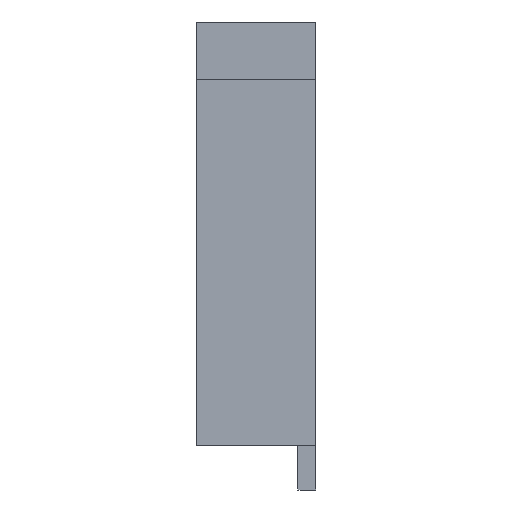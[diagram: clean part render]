
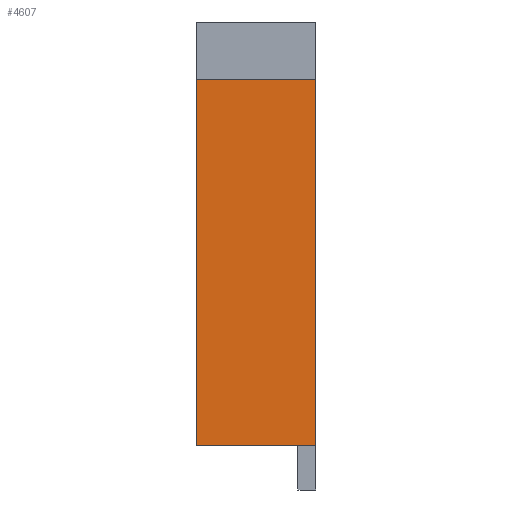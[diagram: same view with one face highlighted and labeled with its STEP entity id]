
A CAD part, left-side view. The second image highlights one B-rep face of the part: STEP entity #4607.
In plain terms, the highlighted planar face has unit normal (-1, 0, 0).
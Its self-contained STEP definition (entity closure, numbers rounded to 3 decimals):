
#310=DIRECTION('',(0.,0.,1.));
#311=VECTOR('',#310,4.15);
#312=CARTESIAN_POINT('',(-7.2,0.,-4.8));
#313=LINE('',#312,#311);
#1634=DIRECTION('',(0.,0.,1.));
#1635=VECTOR('',#1634,4.15);
#1636=CARTESIAN_POINT('',(-7.2,1.35,-4.8));
#1637=LINE('',#1636,#1635);
#1650=DIRECTION('',(0.,1.,0.));
#1651=VECTOR('',#1650,1.35);
#1652=CARTESIAN_POINT('',(-7.2,0.,-0.65));
#1653=LINE('',#1652,#1651);
#1654=DIRECTION('',(0.,1.,0.));
#1655=VECTOR('',#1654,1.35);
#1656=CARTESIAN_POINT('',(-7.2,0.,-4.8));
#1657=LINE('',#1656,#1655);
#2019=CARTESIAN_POINT('',(-7.2,1.35,-4.8));
#2021=VERTEX_POINT('',#2019);
#2024=CARTESIAN_POINT('',(-7.2,0.,-4.8));
#2025=VERTEX_POINT('',#2024);
#2052=CARTESIAN_POINT('',(-7.2,0.,-0.65));
#2053=VERTEX_POINT('',#2052);
#2064=CARTESIAN_POINT('',(-7.2,1.35,-0.65));
#2065=VERTEX_POINT('',#2064);
#4596=CARTESIAN_POINT('',(-7.2,0.,-4.8));
#4597=DIRECTION('',(-1.,0.,0.));
#4598=DIRECTION('',(0.,0.,1.));
#4599=AXIS2_PLACEMENT_3D('',#4596,#4597,#4598);
#4600=PLANE('',#4599);
#4601=ORIENTED_EDGE('',*,*,#4589,.F.);
#4602=ORIENTED_EDGE('',*,*,#2849,.F.);
#4603=ORIENTED_EDGE('',*,*,#3048,.T.);
#4604=ORIENTED_EDGE('',*,*,#4563,.T.);
#4605=EDGE_LOOP('',(#4601,#4602,#4603,#4604));
#4606=FACE_OUTER_BOUND('',#4605,.F.);
#4607=ADVANCED_FACE('',(#4606),#4600,.T.);
#2849=EDGE_CURVE('',#2025,#2053,#313,.T.);
#3048=EDGE_CURVE('',#2025,#2021,#1657,.T.);
#4563=EDGE_CURVE('',#2021,#2065,#1637,.T.);
#4589=EDGE_CURVE('',#2053,#2065,#1653,.T.);
